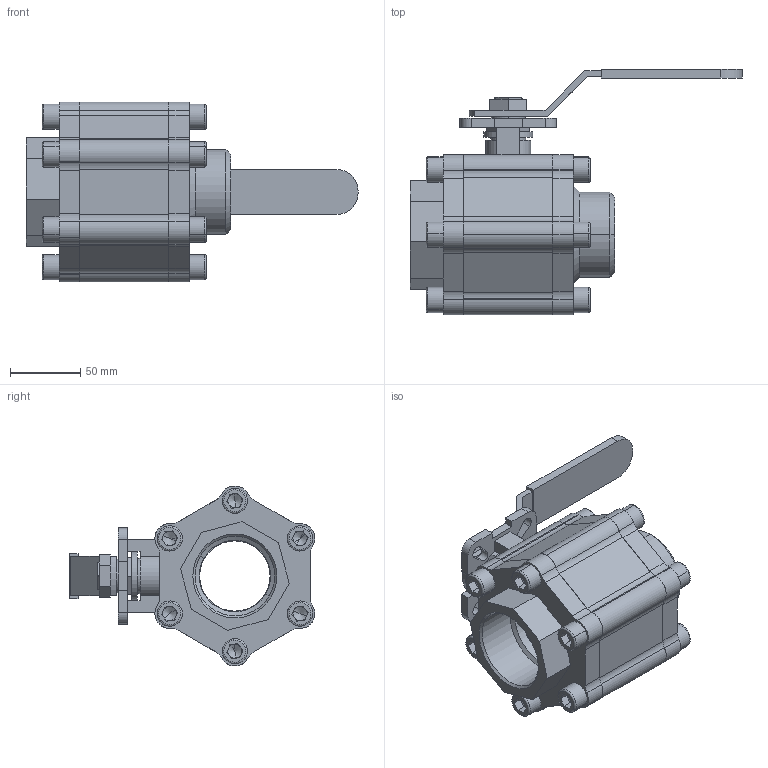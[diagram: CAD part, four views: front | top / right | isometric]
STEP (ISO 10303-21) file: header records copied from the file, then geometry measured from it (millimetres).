
FILE_DESCRIPTION (( 'STEP AP214' ), '1' );
FILE_NAME ('S33D DN50 BW HB.step', '2010-10-27T14:41:22', ( '' ), ( '' ), 'SwSTEP 2.0', 'SolidWorks 2010', '' );
FILE_SCHEMA (( 'AUTOMOTIVE_DESIGN' ));
Length unit declared in the file: millimetre
Products named in the file (6): S33D KK DN50 PN100; DIN 912 M12 x 30 --- 30N_DIN 912 M12 x 30 --- 30N; S33D Flens Buttweld DN50; S33D Draadflens DN50-G2; Hendel S33D DN40; S33D DN50 BW HB
Assembly tree (16 placements, depth 2):
  S33D DN50 BW HB
    DIN 912 M12 x 30 --- 30N_DIN 912 M12 x 30 --- 30N  x12
    S33D Flens Buttweld DN50
    S33D Draadflens DN50-G2
    Hendel S33D DN40
    S33D KK DN50 PN100
Bounding box: 236.08 x 174.61 x 127.98 mm (x, y, z)
Volume: 932144.8 mm3; surface area: 195662.9 mm2
Topology: 16 solids, 16 shells, 615 faces, 1497 edges, 920 vertices
Faces by surface type: plane 315, cylinder 196, cone 56, torus 48
Entity records: 10599 total; most frequent: DIRECTION 1881, CARTESIAN_POINT 1751, ORIENTED_EDGE 1714, EDGE_CURVE 857, AXIS2_PLACEMENT_3D 687, VERTEX_POINT 557, LINE 507, VECTOR 507
